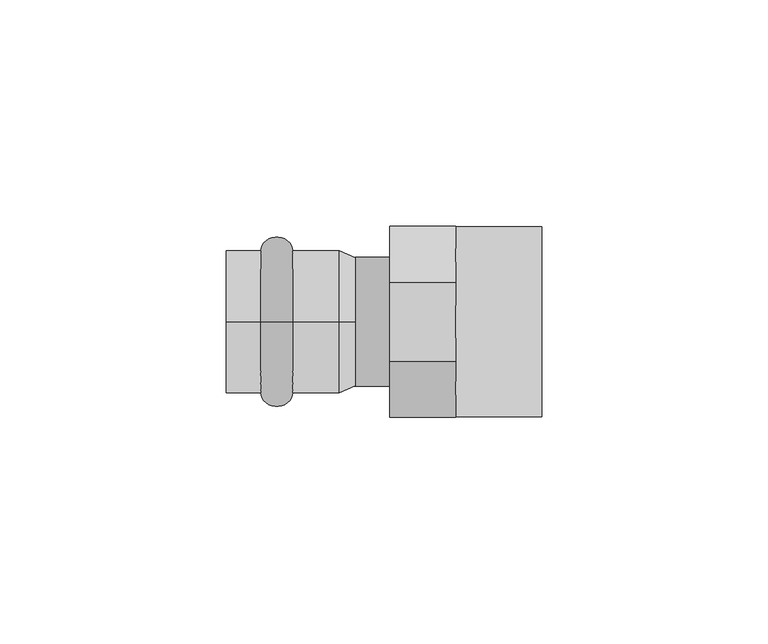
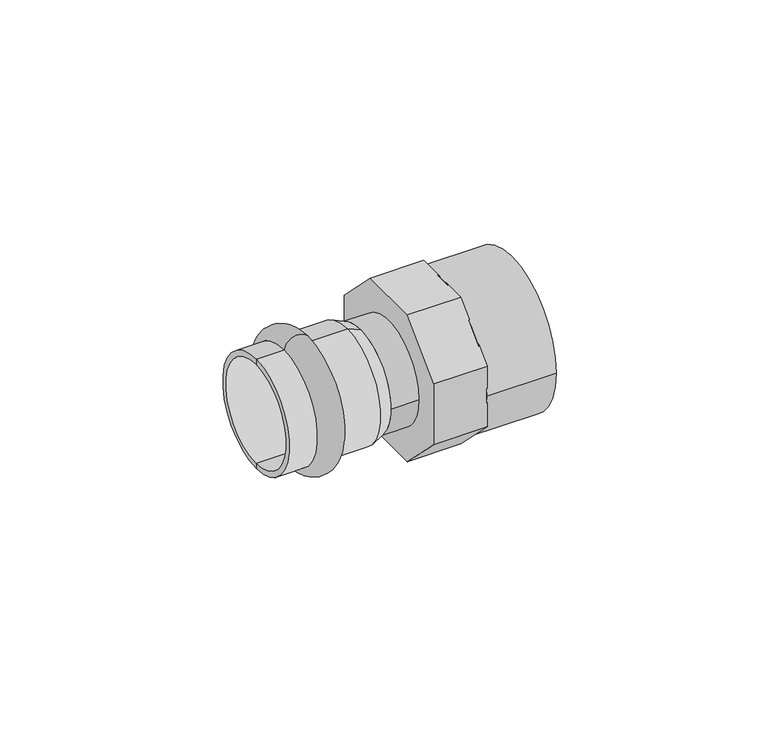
"""IFC4 building model written with IfcOpenShell, lengths in millimetres: pipe fitting geometry."""

from ifc_helpers import new_model, si_unit, point, frame, origin, origin_2d, place, context, project, spatial, polyline, circle_curve, ellipse_curve, trimmed, segment, composite_curve, outline, extrude, source, transform, mapped, element, save
from ifc_brep_helpers import plane_surface, cylinder_surface, revolved_surface, advanced_brep


def pipe_fitting_a1b1b950(model_context):
    return source(origin(), model_context, "Body", "SolidModel", [
        advanced_brep(
        [(-17.3, 0.0, 15.75), (-17.3, 0.0, -15.75), (-10.3, 0.0, -15.75), (-10.3, 0.0, 15.75)],
        [
            (0, 1, circle_curve(frame((-17.3, 0.0, 0.0), z_axis=(-1.0, 0.0, 0.0), x_axis=(0.0, 0.0, -1.0)), 15.75)),
            (1, 2),
            (2, 3, circle_curve(frame((-10.3, 0.0, 0.0), z_axis=(1.0, 0.0, 0.0), x_axis=(0.0, 0.0, -1.0)), 15.75)),
            (3, 0),
            (1, 0, circle_curve(frame((-17.3, 0.0, 0.0), z_axis=(-1.0, 0.0, 0.0), x_axis=(0.0, 0.0, -1.0)), 15.75)),
            (3, 2, circle_curve(frame((-10.3, 0.0, 0.0), z_axis=(1.0, 0.0, 0.0), x_axis=(0.0, 0.0, -1.0)), 15.75)),
            (2, 1, ellipse_curve(frame((-13.8, 0.0, -15.75), z_axis=(0.0, 1.0, 0.0), x_axis=(-1.0, 0.0, 0.0)), 3.5, 3.1)),
            (0, 3, ellipse_curve(frame((-13.8, 0.0, 15.75), z_axis=(0.0, 1.0, 0.0), x_axis=(-1.0, 0.0, 0.0)), 3.5, 3.1)),
        ],
        [
            revolved_surface(polyline([(-10.3, 0.0, -15.75), (-17.3, 0.0, -15.75)]), (2.7, 0.0, 0.0), (1.0, 0.0, 0.0)),
            revolved_surface(trimmed(ellipse_curve(frame((-13.8, 0.0, -15.75), z_axis=(0.0, -1.0, 0.0), x_axis=(-1.0, 0.0, 0.0)), 3.5, 3.1), [point((-17.3, 0.0, -15.75))], [point((-10.3, 0.0, -15.75))], True, "CARTESIAN"), (2.7, 0.0, 0.0), (1.0, 0.0, 0.0)),
        ],
        [
            (0, [[1, 2, 3, 4]]),
            (0, [[5, -4, 6, -2]]),
            (1, [[-3, 7, -1, 8]]),
            (1, [[-6, -8, -5, -7]]),
        ],
    ),
        advanced_brep(
        [(3.5337785, 0.0, 14.25), (3.5337785, 0.0, -14.25), (0.0, 0.0, -15.75), (0.0, 0.0, 15.75), (-25.0, 0.0, 14.25), (-25.0, 0.0, -14.25), (-25.0, 0.0, 15.75), (-25.0, 0.0, -15.75)],
        [
            (0, 1, circle_curve(frame((3.5337785, 0.0, 0.0), z_axis=(-1.0, 0.0, 0.0), x_axis=(0.0, 0.0, -1.0)), 14.25)),
            (1, 2),
            (2, 3, circle_curve(frame((0.0, 0.0, 0.0), z_axis=(1.0, 0.0, 0.0), x_axis=(0.0, 0.0, -1.0)), 15.75)),
            (3, 0),
            (1, 0, circle_curve(frame((3.5337785, 0.0, 0.0), z_axis=(-1.0, 0.0, 0.0), x_axis=(0.0, 0.0, -1.0)), 14.25)),
            (3, 2, circle_curve(frame((0.0, 0.0, 0.0), z_axis=(1.0, 0.0, 0.0), x_axis=(0.0, 0.0, -1.0)), 15.75)),
            (4, 5, circle_curve(frame((-25.0, 0.0, 0.0), z_axis=(-1.0, 0.0, 0.0), x_axis=(0.0, 0.0, -1.0)), 14.25)),
            (5, 1),
            (0, 4),
            (5, 4, circle_curve(frame((-25.0, 0.0, 0.0), z_axis=(-1.0, 0.0, 0.0), x_axis=(0.0, 0.0, -1.0)), 14.25)),
            (6, 7, circle_curve(frame((-25.0, 0.0, 0.0), z_axis=(-1.0, 0.0, 0.0), x_axis=(0.0, 0.0, -1.0)), 15.75)),
            (7, 5),
            (4, 6),
            (7, 6, circle_curve(frame((-25.0, 0.0, 0.0), z_axis=(-1.0, 0.0, 0.0), x_axis=(0.0, 0.0, -1.0)), 15.75)),
            (2, 7),
            (6, 3),
        ],
        [
            revolved_surface(polyline([(0.0, 0.0, -15.75), (3.5337785, 0.0, -14.25)]), (2.7, 0.0, 0.0), (1.0, 0.0, 0.0)),
            revolved_surface(polyline([(3.5337785, 0.0, -14.25), (-25.0, 0.0, -14.25)]), (2.7, 0.0, 0.0), (1.0, 0.0, 0.0)),
            plane_surface(frame((-25.0, 0.0, 0.0), z_axis=(-1.0, 0.0, 0.0), x_axis=(0.0, 0.0, -1.0))),
            cylinder_surface(frame((2.7, 0.0, 0.0), z_axis=(1.0, 0.0, 0.0), x_axis=(0.0, 0.0, -1.0)), 15.75),
        ],
        [
            (0, [[1, 2, 3, 4]]),
            (0, [[5, -4, 6, -2]]),
            (1, [[7, 8, -1, 9]]),
            (1, [[10, -9, -5, -8]]),
            (2, [[11, 12, -7, 13]]),
            (2, [[14, -13, -10, -12]]),
            (3, [[-3, 15, -11, 16]]),
            (3, [[-6, -16, -14, -15]]),
        ],
    ),
        extrude(outline(composite_curve([segment(trimmed(circle_curve(origin_2d(), 21.0), [point((-21.0, 0.0))], [point((21.0, 0.0))], False, "CARTESIAN"), True, "CONTINUOUS"), segment(trimmed(circle_curve(origin_2d(), 21.0), [point((21.0, 0.0))], [point((-21.0, 0.0))], False, "CARTESIAN"), True, "CONTINUOUS")], self_intersect=False)), frame((25.8337785, 0.0, 0.0), z_axis=(1.0, 0.0, 0.0), x_axis=(0.0, 1.0, 0.0)), (0.0, 0.0, 1.0), 19.0),
        extrude(outline(composite_curve([segment(trimmed(circle_curve(origin_2d(), 14.25), [point((-14.25, 0.0))], [point((14.25, 0.0))], False, "CARTESIAN"), True, "CONTINUOUS"), segment(trimmed(circle_curve(origin_2d(), 14.25), [point((14.25, 0.0))], [point((-14.25, 0.0))], False, "CARTESIAN"), True, "CONTINUOUS")], self_intersect=False)), frame((3.5337785, 0.0, 0.0), z_axis=(1.0, 0.0, 0.0), x_axis=(0.0, 1.0, 0.0)), (0.0, 0.0, 1.0), 7.7),
        extrude(outline(polyline([(-21.15, 8.7606168), (-8.7606168, 21.15), (8.7606168, 21.15), (21.15, 8.7606168), (21.15, -8.7606168), (8.7606168, -21.15), (-8.7606168, -21.15), (-21.15, -8.7606168), (-21.15, 8.7606168)]), holes=[polyline([(3.8314755, -9.25), (9.25, -3.8314755), (9.25, 3.8314755), (3.8314755, 9.25), (-3.8314755, 9.25), (-9.25, 3.8314755), (-9.25, -3.8314755), (-3.8314755, -9.25), (3.8314755, -9.25)])]), frame((11.2337785, 0.0, 0.0), z_axis=(1.0, 0.0, 0.0), x_axis=(0.0, 1.0, 0.0)), (0.0, 0.0, 1.0), 14.6),
    ])


if __name__ == "__main__":
    model = new_model("IFC4")
    model_context = context("Model", 3, world=origin())
    ifc_project = project(units=[si_unit("LENGTHUNIT", "METRE", prefix="MILLI")], contexts=[model_context])
    site = spatial("IfcSite", under=ifc_project)
    building = spatial("IfcBuilding", under=site)
    placement = place(None, origin())
    pipe_fitting_shape = pipe_fitting_a1b1b950(model_context)
    element("IfcPipeFitting", 1, ObjectType="РЕХАУ_Пресс Муфта НР : 28 x R 1 1/4\"", at=placement, inside=building, context=model_context, shape_type="MappedRepresentation", body=[
        mapped(pipe_fitting_shape, transform((0.0, 0.0, 0.0), x_axis=(1.0, 0.0, 0.0), y_axis=(0.0, 1.0, 0.0), z_axis=(0.0, 0.0, 1.0))),
    ])
    save(model, "model.ifc")
